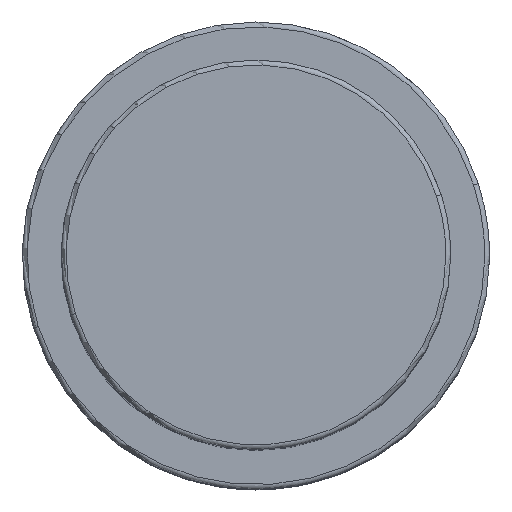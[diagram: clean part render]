
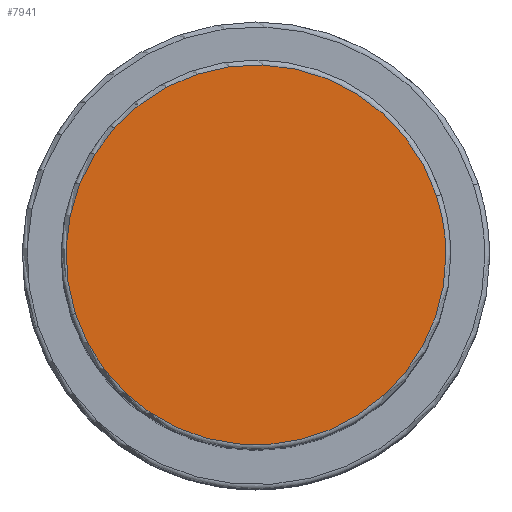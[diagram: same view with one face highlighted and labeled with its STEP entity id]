
A CAD part, top view. The second image highlights one B-rep face of the part: STEP entity #7941.
In plain terms, the highlighted planar face has unit normal (0, 0, 1).
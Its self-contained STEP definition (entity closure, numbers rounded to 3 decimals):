
#7874=CARTESIAN_POINT('',(18.546,6.026,68.5));
#7875=VERTEX_POINT('',#7874);
#7893=CARTESIAN_POINT('',(-18.546,-6.026,68.5));
#7894=VERTEX_POINT('',#7893);
#7902=CARTESIAN_POINT('',(0.0,0.0,68.5));
#7903=DIRECTION('',(0.0,0.0,1.0));
#7904=DIRECTION('',(1.0,0.0,0.0));
#7905=AXIS2_PLACEMENT_3D('',#7902,#7903,#7904);
#7906=CIRCLE('',#7905,19.5);
#7907=EDGE_CURVE('no 4212',#7875,#7894,#7906,.T.);
#7917=CARTESIAN_POINT('',(19.5,0.0,68.5));
#7918=VERTEX_POINT('',#7917);
#7919=CARTESIAN_POINT('',(0.0,0.0,68.5));
#7920=DIRECTION('',(0.0,0.0,1.0));
#7921=DIRECTION('',(1.0,0.0,0.0));
#7922=AXIS2_PLACEMENT_3D('',#7919,#7920,#7921);
#7923=CIRCLE('',#7922,19.5);
#7924=EDGE_CURVE('no 4221',#7918,#7875,#7923,.T.);
#7925=ORIENTED_EDGE('',*,*,#7924,.T.);
#7926=ORIENTED_EDGE('',*,*,#7907,.T.);
#7927=CARTESIAN_POINT('',(0.0,0.0,68.5));
#7928=DIRECTION('',(0.0,0.0,1.0));
#7929=DIRECTION('',(1.0,0.0,0.0));
#7930=AXIS2_PLACEMENT_3D('',#7927,#7928,#7929);
#7931=CIRCLE('',#7930,19.5);
#7932=EDGE_CURVE('no 4227',#7894,#7918,#7931,.T.);
#7933=ORIENTED_EDGE('',*,*,#7932,.T.);
#7934=EDGE_LOOP('',(#7925,#7926,#7933));
#7935=FACE_OUTER_BOUND('',#7934,.T.);
#7936=CARTESIAN_POINT('',(0.0,0.0,68.5));
#7937=DIRECTION('',(0.0,0.0,1.0));
#7938=DIRECTION('',(1.0,0.0,0.0));
#7939=AXIS2_PLACEMENT_3D('',#7936,#7937,#7938);
#7940=PLANE('',#7939);
#7941=ADVANCED_FACE('no 4214',(#7935),#7940,.T.);
